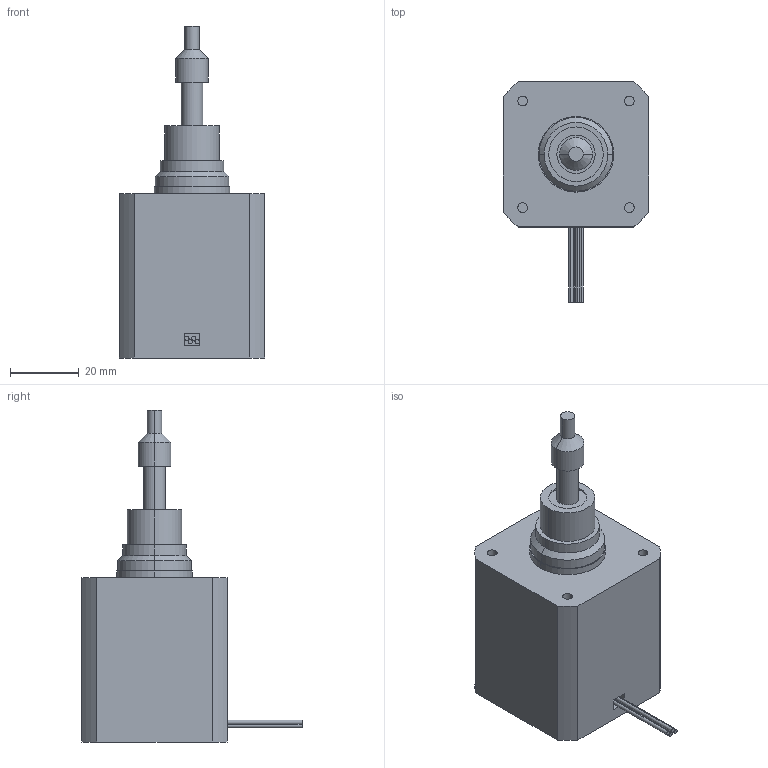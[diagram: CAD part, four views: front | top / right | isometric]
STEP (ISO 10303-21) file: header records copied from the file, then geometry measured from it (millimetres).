
FILE_DESCRIPTION (( 'STEP AP214' ), '1' );
FILE_NAME ('AMETEK-43M4B-2.33-0.50-12-PTFE-M3.STEP', '2022-02-28T12:15:20', ( '' ), ( '' ), 'SwSTEP 2.0', 'SolidWorks 2021', '' );
FILE_SCHEMA (( 'AUTOMOTIVE_DESIGN' ));
Length unit declared in the file: millimetre
Products named in the file (1): AMETEK-43M4B-2.33-0.50-12-PTFE-M3
Bounding box: 42.2 x 64.03 x 96.58 mm (x, y, z)
Volume: 87456.8 mm3; surface area: 14769.7 mm2
Topology: 2 solids, 2 shells, 71 faces, 148 edges, 96 vertices
Faces by surface type: cylinder 40, plane 27, cone 4
Entity records: 2713 total; most frequent: DIRECTION 372, CARTESIAN_POINT 316, ORIENTED_EDGE 296, AXIS2_PLACEMENT_3D 152, EDGE_CURVE 148, VERTEX_POINT 96, EDGE_LOOP 88, CIRCLE 80
